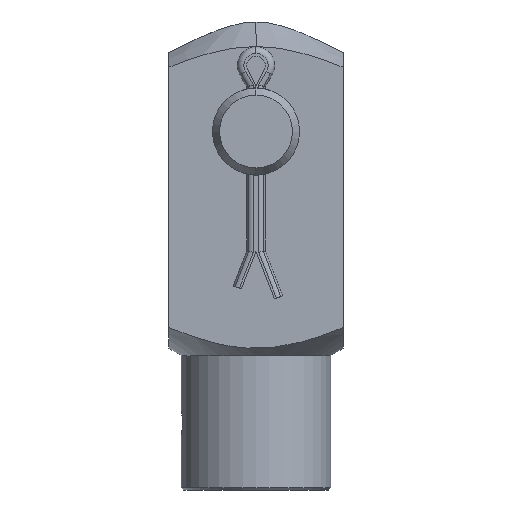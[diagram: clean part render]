
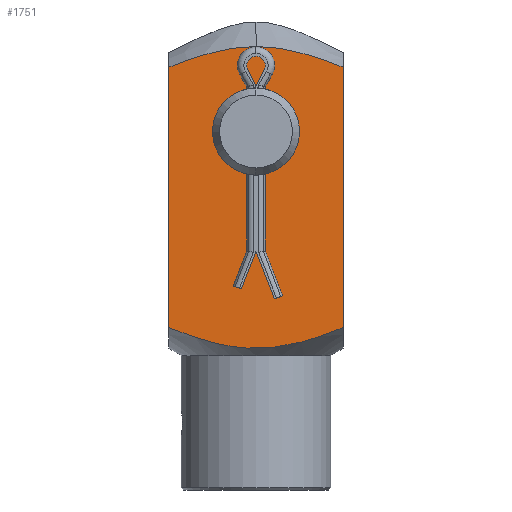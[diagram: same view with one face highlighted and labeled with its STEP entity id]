
A CAD part, left-side view. The second image highlights one B-rep face of the part: STEP entity #1751.
In plain terms, the highlighted planar face has unit normal (-1, 0, 0).
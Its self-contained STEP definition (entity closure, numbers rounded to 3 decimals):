
#10 = FACE_BOUND ( 'NONE', #2438, .T. ) ;
#23 = CARTESIAN_POINT ( 'NONE',  ( -35., 14.497, 434.685 ) ) ;
#47 = DIRECTION ( 'NONE',  ( 0., 1., 0. ) ) ;
#96 = EDGE_CURVE ( 'NONE', #609, #1535, #1791, .T. ) ;
#228 = VERTEX_POINT ( 'NONE', #1904 ) ;
#348 = VECTOR ( 'NONE', #426, 1000. ) ;
#424 = EDGE_CURVE ( 'NONE', #1659, #568, #541, .T. ) ;
#425 = VERTEX_POINT ( 'NONE', #2707 ) ;
#426 = DIRECTION ( 'NONE',  ( 0., 0., 1. ) ) ;
#458 = DIRECTION ( 'NONE',  ( 1., 0., 0. ) ) ;
#517 = CARTESIAN_POINT ( 'NONE',  ( -35., -35., 426.315 ) ) ;
#541 =( BOUNDED_CURVE ( )  B_SPLINE_CURVE ( 2, ( #517, #2048, #947 ),
 .UNSPECIFIED., .F., .F. ) 
 B_SPLINE_CURVE_WITH_KNOTS ( ( 3, 3 ),
 ( 1.607, 6.073 ),
 .UNSPECIFIED. ) 
 CURVE ( )  GEOMETRIC_REPRESENTATION_ITEM ( )  RATIONAL_B_SPLINE_CURVE ( ( 1.213, 1.465, 1.465 ) ) 
 REPRESENTATION_ITEM ( '' )  );
#554 = CARTESIAN_POINT ( 'NONE',  ( -35., 0., 400.5 ) ) ;
#568 = VERTEX_POINT ( 'NONE', #2261 ) ;
#609 = VERTEX_POINT ( 'NONE', #2627 ) ;
#711 = AXIS2_PLACEMENT_3D ( 'NONE', #2005, #1768, #1349 ) ;
#853 = PLANE ( 'NONE',  #711 ) ;
#884 = CARTESIAN_POINT ( 'NONE',  ( -35., 35., 321.757 ) ) ;
#897 = ORIENTED_EDGE ( 'NONE', *, *, #2797, .T. ) ;
#909 = ORIENTED_EDGE ( 'NONE', *, *, #1459, .T. ) ;
#947 = CARTESIAN_POINT ( 'NONE',  ( -35., 0., 434.685 ) ) ;
#965 = DIRECTION ( 'NONE',  ( 0., 0., 1. ) ) ;
#982 = ORIENTED_EDGE ( 'NONE', *, *, #96, .T. ) ;
#1086 = ORIENTED_EDGE ( 'NONE', *, *, #1822, .F. ) ;
#1108 = CARTESIAN_POINT ( 'NONE',  ( -35., 0., 434.685 ) ) ;
#1120 = FACE_OUTER_BOUND ( 'NONE', #2519, .T. ) ;
#1203 = DIRECTION ( 'NONE',  ( 0., 1., 0. ) ) ;
#1220 = ORIENTED_EDGE ( 'NONE', *, *, #1455, .T. ) ;
#1225 = VECTOR ( 'NONE', #965, 1000. ) ;
#1262 = CARTESIAN_POINT ( 'NONE',  ( -35., -35., 426.315 ) ) ;
#1312 = CIRCLE ( 'NONE', #2642, 17.5 ) ;
#1316 =( BOUNDED_CURVE ( )  B_SPLINE_CURVE ( 2, ( #1108, #23, #1786 ),
 .UNSPECIFIED., .F., .T. ) 
 B_SPLINE_CURVE_WITH_KNOTS ( ( 3, 3 ),
 ( 6.073, 10.538 ),
 .UNSPECIFIED. ) 
 CURVE ( )  GEOMETRIC_REPRESENTATION_ITEM ( )  RATIONAL_B_SPLINE_CURVE ( ( 1.465, 1.465, 1.213 ) ) 
 REPRESENTATION_ITEM ( '' )  );
#1349 = DIRECTION ( 'NONE',  ( 0., 0., -1. ) ) ;
#1369 = CARTESIAN_POINT ( 'NONE',  ( -35., -35., 321.757 ) ) ;
#1394 = DIRECTION ( 'NONE',  ( 1., 0., 0. ) ) ;
#1406 = CARTESIAN_POINT ( 'NONE',  ( -35., 35., 310.5 ) ) ;
#1455 = EDGE_CURVE ( 'NONE', #2841, #425, #2110, .T. ) ;
#1459 = EDGE_CURVE ( 'NONE', #425, #1659, #1741, .T. ) ;
#1535 = VERTEX_POINT ( 'NONE', #2485 ) ;
#1539 = EDGE_CURVE ( 'NONE', #1535, #609, #1312, .T. ) ;
#1556 = CARTESIAN_POINT ( 'NONE',  ( -35., 0., 307.468 ) ) ;
#1557 = ORIENTED_EDGE ( 'NONE', *, *, #424, .T. ) ;
#1573 = CARTESIAN_POINT ( 'NONE',  ( -35., 0., 400.5 ) ) ;
#1659 = VERTEX_POINT ( 'NONE', #1262 ) ;
#1741 = LINE ( 'NONE', #2616, #348 ) ;
#1751 = ADVANCED_FACE ( 'NONE', ( #10, #1120 ), #853, .T. ) ;
#1768 = DIRECTION ( 'NONE',  ( -1., 0., 0. ) ) ;
#1786 = CARTESIAN_POINT ( 'NONE',  ( -35., 35., 426.315 ) ) ;
#1791 = CIRCLE ( 'NONE', #2836, 17.5 ) ;
#1822 = EDGE_CURVE ( 'NONE', #2841, #228, #2051, .T. ) ;
#1904 = CARTESIAN_POINT ( 'NONE',  ( -35., 35., 426.315 ) ) ;
#2005 = CARTESIAN_POINT ( 'NONE',  ( -35., -35., 310.5 ) ) ;
#2048 = CARTESIAN_POINT ( 'NONE',  ( -35., -14.497, 434.685 ) ) ;
#2051 = LINE ( 'NONE', #1406, #1225 ) ;
#2110 =( BOUNDED_CURVE ( )  B_SPLINE_CURVE ( 2, ( #884, #1556, #1369 ),
 .UNSPECIFIED., .F., .T. ) 
 B_SPLINE_CURVE_WITH_KNOTS ( ( 3, 3 ),
 ( 0.051, 7.297 ),
 .UNSPECIFIED. ) 
 CURVE ( )  GEOMETRIC_REPRESENTATION_ITEM ( )  RATIONAL_B_SPLINE_CURVE ( ( 1.006, 1.423, 1.006 ) ) 
 REPRESENTATION_ITEM ( '' )  );
#2128 = CARTESIAN_POINT ( 'NONE',  ( -35., 35., 321.757 ) ) ;
#2261 = CARTESIAN_POINT ( 'NONE',  ( -35., 0., 434.685 ) ) ;
#2438 = EDGE_LOOP ( 'NONE', ( #982, #2459 ) ) ;
#2459 = ORIENTED_EDGE ( 'NONE', *, *, #1539, .T. ) ;
#2485 = CARTESIAN_POINT ( 'NONE',  ( -35., -17.5, 400.5 ) ) ;
#2519 = EDGE_LOOP ( 'NONE', ( #1220, #909, #1557, #897, #1086 ) ) ;
#2616 = CARTESIAN_POINT ( 'NONE',  ( -35., -35., 310.5 ) ) ;
#2627 = CARTESIAN_POINT ( 'NONE',  ( -35., 17.5, 400.5 ) ) ;
#2642 = AXIS2_PLACEMENT_3D ( 'NONE', #554, #1394, #1203 ) ;
#2707 = CARTESIAN_POINT ( 'NONE',  ( -35., -35., 321.757 ) ) ;
#2797 = EDGE_CURVE ( 'NONE', #568, #228, #1316, .T. ) ;
#2836 = AXIS2_PLACEMENT_3D ( 'NONE', #1573, #458, #47 ) ;
#2841 = VERTEX_POINT ( 'NONE', #2128 ) ;
